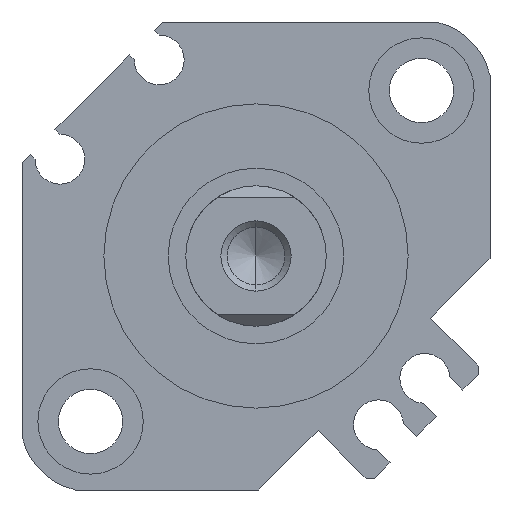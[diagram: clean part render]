
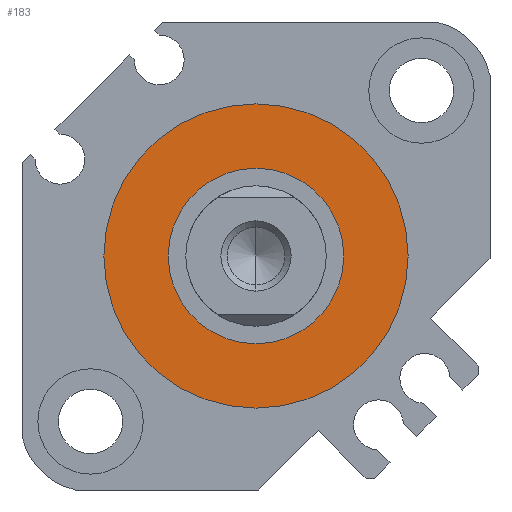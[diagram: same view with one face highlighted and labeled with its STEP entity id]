
A CAD part, left-side view. The second image highlights one B-rep face of the part: STEP entity #183.
In plain terms, the highlighted planar face has unit normal (-1, 0, 0).
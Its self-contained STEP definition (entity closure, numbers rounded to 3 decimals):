
#38 = DIRECTION ( 'NONE',  ( 0., 0., -1. ) ) ;
#43 = CARTESIAN_POINT ( 'NONE',  ( 1.9, 0., -7.5 ) ) ;
#108 = AXIS2_PLACEMENT_3D ( 'NONE', #3199, #1362, #823 ) ;
#113 = AXIS2_PLACEMENT_3D ( 'NONE', #1553, #2611, #1030 ) ;
#183 = ADVANCED_FACE ( 'NONE', ( #431, #977 ), #722, .F. ) ;
#200 = ORIENTED_EDGE ( 'NONE', *, *, #1071, .T. ) ;
#323 = DIRECTION ( 'NONE',  ( 1., 0., 0. ) ) ;
#347 = EDGE_CURVE ( 'NONE', #1133, #494, #1603, .T. ) ;
#372 = AXIS2_PLACEMENT_3D ( 'NONE', #1355, #2416, #38 ) ;
#431 = FACE_OUTER_BOUND ( 'NONE', #3100, .T. ) ;
#494 = VERTEX_POINT ( 'NONE', #1129 ) ;
#534 = EDGE_CURVE ( 'NONE', #893, #1114, #3186, .T. ) ;
#722 = PLANE ( 'NONE',  #113 ) ;
#823 = DIRECTION ( 'NONE',  ( 0., 0., -1. ) ) ;
#893 = VERTEX_POINT ( 'NONE', #2596 ) ;
#977 = FACE_BOUND ( 'NONE', #1723, .T. ) ;
#1030 = DIRECTION ( 'NONE',  ( 0., 1., 0. ) ) ;
#1071 = EDGE_CURVE ( 'NONE', #1114, #893, #1830, .T. ) ;
#1114 = VERTEX_POINT ( 'NONE', #43 ) ;
#1129 = CARTESIAN_POINT ( 'NONE',  ( 1.9, 0., -13. ) ) ;
#1133 = VERTEX_POINT ( 'NONE', #1624 ) ;
#1325 = CARTESIAN_POINT ( 'NONE',  ( 1.9, 0., 0. ) ) ;
#1355 = CARTESIAN_POINT ( 'NONE',  ( 1.9, 0., 0. ) ) ;
#1362 = DIRECTION ( 'NONE',  ( 1., 0., 0. ) ) ;
#1449 = AXIS2_PLACEMENT_3D ( 'NONE', #2765, #323, #2003 ) ;
#1553 = CARTESIAN_POINT ( 'NONE',  ( 1.9, 0., 0. ) ) ;
#1603 = CIRCLE ( 'NONE', #108, 13. ) ;
#1624 = CARTESIAN_POINT ( 'NONE',  ( 1.9, 0., 13. ) ) ;
#1628 = EDGE_CURVE ( 'NONE', #494, #1133, #1892, .T. ) ;
#1723 = EDGE_LOOP ( 'NONE', ( #2350, #200 ) ) ;
#1830 = CIRCLE ( 'NONE', #2269, 7.5 ) ;
#1892 = CIRCLE ( 'NONE', #1449, 13. ) ;
#2003 = DIRECTION ( 'NONE',  ( 0., 0., -1. ) ) ;
#2218 = ORIENTED_EDGE ( 'NONE', *, *, #1628, .F. ) ;
#2269 = AXIS2_PLACEMENT_3D ( 'NONE', #1325, #2885, #2610 ) ;
#2350 = ORIENTED_EDGE ( 'NONE', *, *, #534, .T. ) ;
#2416 = DIRECTION ( 'NONE',  ( 1., 0., 0. ) ) ;
#2431 = ORIENTED_EDGE ( 'NONE', *, *, #347, .F. ) ;
#2596 = CARTESIAN_POINT ( 'NONE',  ( 1.9, 0., 7.5 ) ) ;
#2610 = DIRECTION ( 'NONE',  ( 0., 0., -1. ) ) ;
#2611 = DIRECTION ( 'NONE',  ( 1., 0., 0. ) ) ;
#2765 = CARTESIAN_POINT ( 'NONE',  ( 1.9, 0., 0. ) ) ;
#2885 = DIRECTION ( 'NONE',  ( 1., 0., 0. ) ) ;
#3100 = EDGE_LOOP ( 'NONE', ( #2431, #2218 ) ) ;
#3186 = CIRCLE ( 'NONE', #372, 7.5 ) ;
#3199 = CARTESIAN_POINT ( 'NONE',  ( 1.9, 0., 0. ) ) ;
